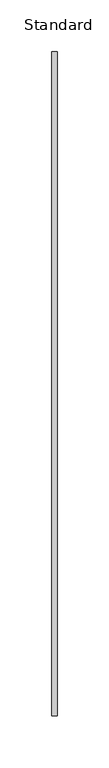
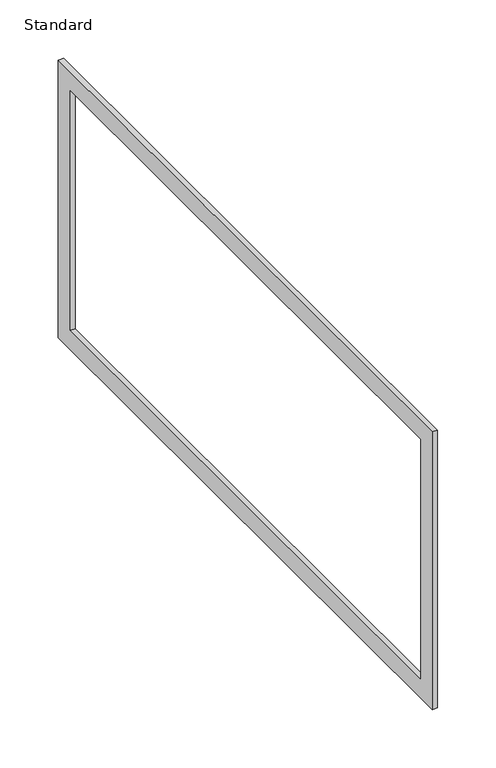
"""IFC4 building model written with IfcOpenShell, lengths in millimetres: duct fitting geometry, Flansch rechteck : Standard."""

from ifc_helpers import new_model, si_unit, frame, origin, place, context, project, spatial, polyline, outline, extrude, source, transform, mapped, element, save


def standard_b8ae673c(model_context):
    return source(origin(), model_context, "Body", "SweptSolid", [
        extrude(outline(polyline([(-320.0, 145.0), (320.0, 145.0), (320.0, -145.0), (-320.0, -145.0), (-320.0, 145.0)]), holes=[polyline([(-300.0, 125.0), (-300.0, -125.0), (300.0, -125.0), (300.0, 125.0), (-300.0, 125.0)])]), frame((0.0, 0.0, 0.0), z_axis=(1.0, 0.0, 0.0), x_axis=(0.0, 1.0, 0.0)), (0.0, 0.0, 1.0), 5.0),
    ])


if __name__ == "__main__":
    model = new_model("IFC4")
    model_context = context("Model", 3, world=origin())
    ifc_project = project(units=[si_unit("LENGTHUNIT", "METRE", prefix="MILLI")], contexts=[model_context])
    site = spatial("IfcSite", under=ifc_project)
    building = spatial("IfcBuilding", under=site)
    placement = place(None, origin())
    standard_shape = standard_b8ae673c(model_context)
    element("IfcDuctFitting", 1, ObjectType="Flansch rechteck : Standard", at=placement, inside=building, context=model_context, shape_type="MappedRepresentation", body=[
        mapped(standard_shape, transform((0.0, 0.0, 0.0), x_axis=(1.0, 0.0, 0.0), y_axis=(0.0, 1.0, 0.0), z_axis=(0.0, 0.0, 1.0))),
    ])
    save(model, "model.ifc")
